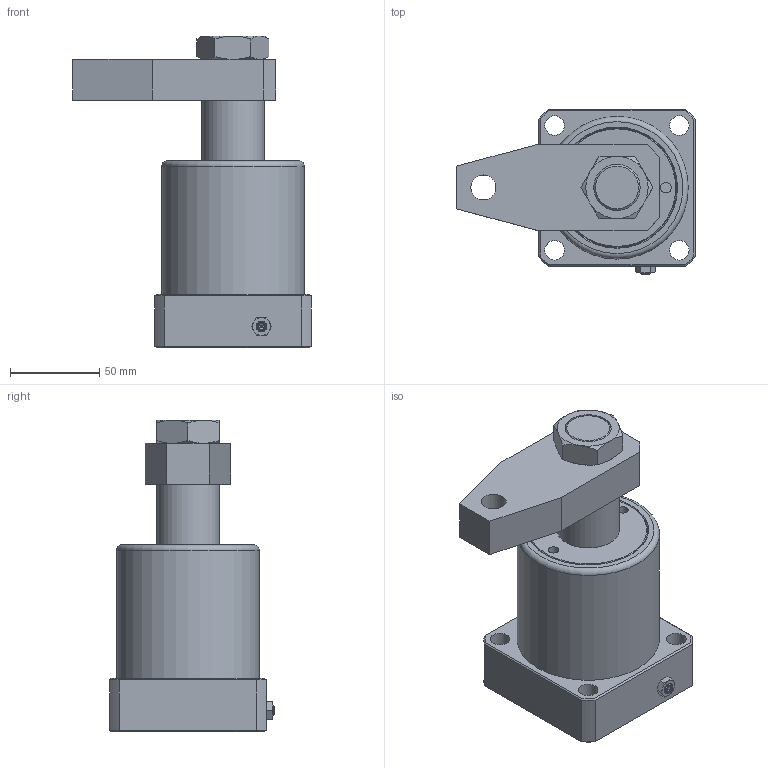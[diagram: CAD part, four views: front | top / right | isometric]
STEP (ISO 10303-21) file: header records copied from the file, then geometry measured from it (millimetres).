
FILE_DESCRIPTION(/* description */ ('Unknown'),/* implementation_level */ '2;1');
FILE_NAME(/* name */ 'HSC-MF63S-A',/* time_stamp */ '2019-05-27T16:03:01+08:00',/* author */ ('Unknown'),/* organization */ ('Unknown'),/* preprocessor_version */ 'ST-DEVELOPER v16.7',/* originating_system */ 'DEX',/* authorisation */ $);
FILE_SCHEMA (('AUTOMOTIVE_DESIGN {1 0 10303 214 3 1 1}'));
Length unit declared in the file: millimetre
Products named in the file (4): HSC-MF63S-A; HSC-MF63S-CYLINDER; HSC-6302-S-AXLE CENTRE; HSC-63S-A
Assembly tree (3 placements, depth 2):
  HSC-MF63S-A
    HSC-MF63S-CYLINDER
    HSC-6302-S-AXLE CENTRE
    HSC-63S-A
Bounding box: 134 x 92.6 x 175 mm (x, y, z)
Volume: 656132.9 mm3; surface area: 107052.7 mm2
Topology: 3 solids, 3 shells, 131 faces, 282 edges, 175 vertices
Faces by surface type: plane 57, cone 34, cylinder 24, bspline 12, torus 4
Full cylindrical faces by diameter (mm): 5 x2, 6 x3, 11 x4, 12 x2, 14 x1, 26 x2, 27 x1, 35 x2, 63 x2, 80 x1
Entity records: 3976 total; most frequent: CARTESIAN_POINT 979, ORIENTED_EDGE 494, DIRECTION 494, EDGE_CURVE 247, AXIS2_PLACEMENT_3D 213, EDGE_LOOP 192, FACE_BOUND 192, VERTEX_POINT 171
